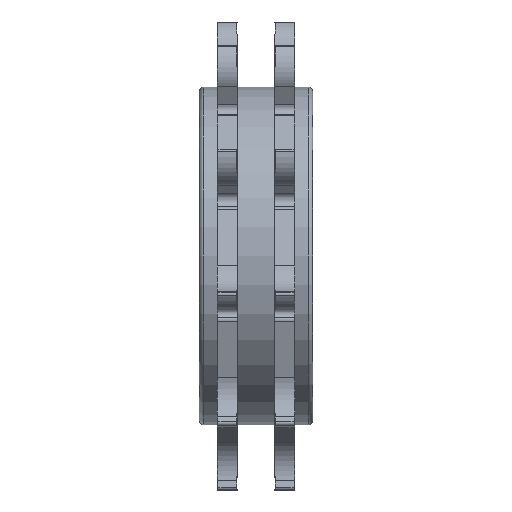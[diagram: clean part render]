
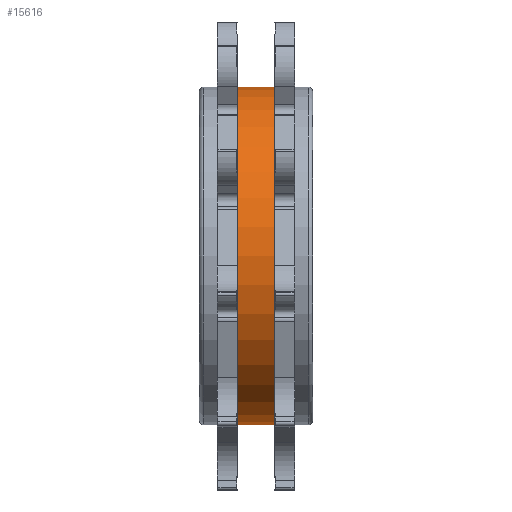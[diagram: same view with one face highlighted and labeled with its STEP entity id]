
A CAD part, front view. The second image highlights one B-rep face of the part: STEP entity #15616.
In plain terms, the highlighted cylindrical face has radius 74.5 mm (diameter 149 mm), a partial arc.
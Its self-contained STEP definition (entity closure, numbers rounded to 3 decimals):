
#1730=DIRECTION('',(-1.,0.,0.));
#1731=VECTOR('',#1730,16.4);
#1732=CARTESIAN_POINT('',(8.2,0.,74.5));
#1733=LINE('',#1732,#1731);
#1737=DIRECTION('',(-1.,0.,0.));
#1738=VECTOR('',#1737,16.4);
#1739=CARTESIAN_POINT('',(8.2,0.,-74.5));
#1740=LINE('',#1739,#1738);
#1752=CARTESIAN_POINT('',(8.2,0.,0.));
#1753=DIRECTION('',(1.,0.,0.));
#1754=DIRECTION('',(0.,0.,1.));
#1755=AXIS2_PLACEMENT_3D('',#1752,#1753,#1754);
#1760=CARTESIAN_POINT('',(-8.2,0.,0.));
#1761=DIRECTION('',(1.,0.,0.));
#1762=DIRECTION('',(0.,0.,1.));
#1763=AXIS2_PLACEMENT_3D('',#1760,#1761,#1762);
#12582=CARTESIAN_POINT('',(8.2,0.,74.5));
#12583=CARTESIAN_POINT('',(-8.2,0.,74.5));
#12584=VERTEX_POINT('',#12582);
#12585=VERTEX_POINT('',#12583);
#12586=CARTESIAN_POINT('',(8.2,0.,-74.5));
#12587=CARTESIAN_POINT('',(-8.2,0.,-74.5));
#12588=VERTEX_POINT('',#12586);
#12589=VERTEX_POINT('',#12587);
#15604=CARTESIAN_POINT('',(-9.02,0.,0.));
#15605=DIRECTION('',(1.,0.,0.));
#15606=DIRECTION('',(0.,0.,1.));
#15607=AXIS2_PLACEMENT_3D('',#15604,#15605,#15606);
#15608=CYLINDRICAL_SURFACE('',#15607,74.5);
#15609=ORIENTED_EDGE('',*,*,#15587,.F.);
#15610=ORIENTED_EDGE('',*,*,#15360,.T.);
#15611=ORIENTED_EDGE('',*,*,#15591,.T.);
#15613=ORIENTED_EDGE('',*,*,#15612,.F.);
#15614=EDGE_LOOP('',(#15609,#15610,#15611,#15613));
#15615=FACE_OUTER_BOUND('',#15614,.F.);
#1756=CIRCLE('',#1755,74.5);
#1764=CIRCLE('',#1763,74.5);
#15360=EDGE_CURVE('',#12584,#12588,#1756,.T.);
#15587=EDGE_CURVE('',#12584,#12585,#1733,.T.);
#15591=EDGE_CURVE('',#12588,#12589,#1740,.T.);
#15612=EDGE_CURVE('',#12585,#12589,#1764,.T.);
#15616=ADVANCED_FACE('',(#15615),#15608,.T.);
